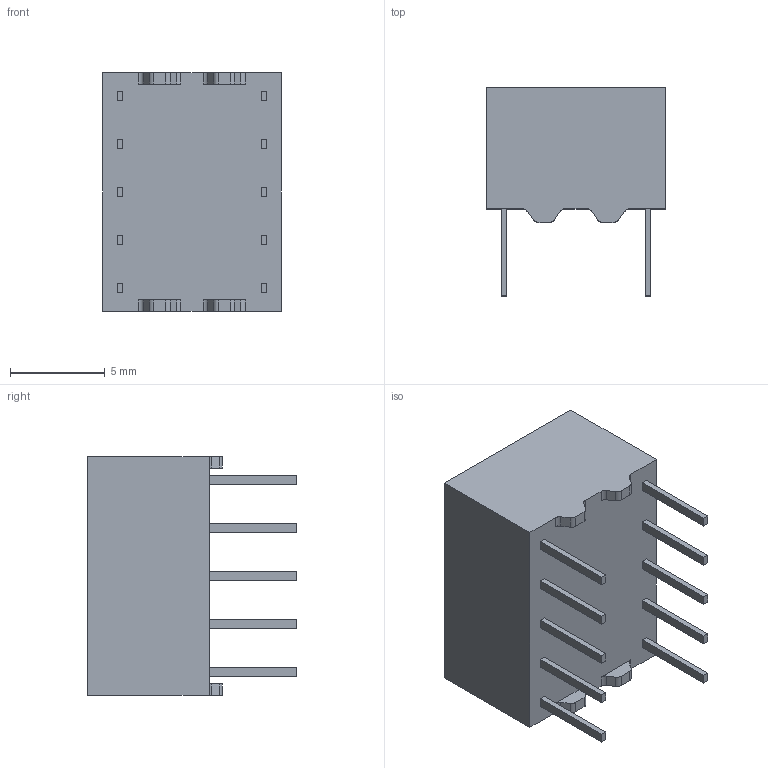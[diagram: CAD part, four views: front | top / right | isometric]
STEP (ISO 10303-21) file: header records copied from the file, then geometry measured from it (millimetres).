
FILE_DESCRIPTION (( 'STEP AP214' ), '1' );
FILE_NAME ('TDSG3150.STEP', '2025-02-11T06:13:51', ( 'LENOVO' ), ( '' ), 'SwSTEP 2.0', 'SolidWorks 2021', '' );
FILE_SCHEMA (( 'AUTOMOTIVE_DESIGN' ));
Length unit declared in the file: millimetre
Products named in the file (1): TDSG3150
Bounding box: 9.45 x 11 x 12.6 mm (x, y, z)
Volume: 771.3 mm3; surface area: 735.3 mm2
Topology: 19 solids, 19 shells, 202 faces, 468 edges, 312 vertices
Faces by surface type: plane 182, cylinder 20
Entity records: 5859 total; most frequent: CARTESIAN_POINT 983, ORIENTED_EDGE 936, DIRECTION 914, EDGE_CURVE 468, VECTOR 428, LINE 428, VERTEX_POINT 312, AXIS2_PLACEMENT_3D 243
